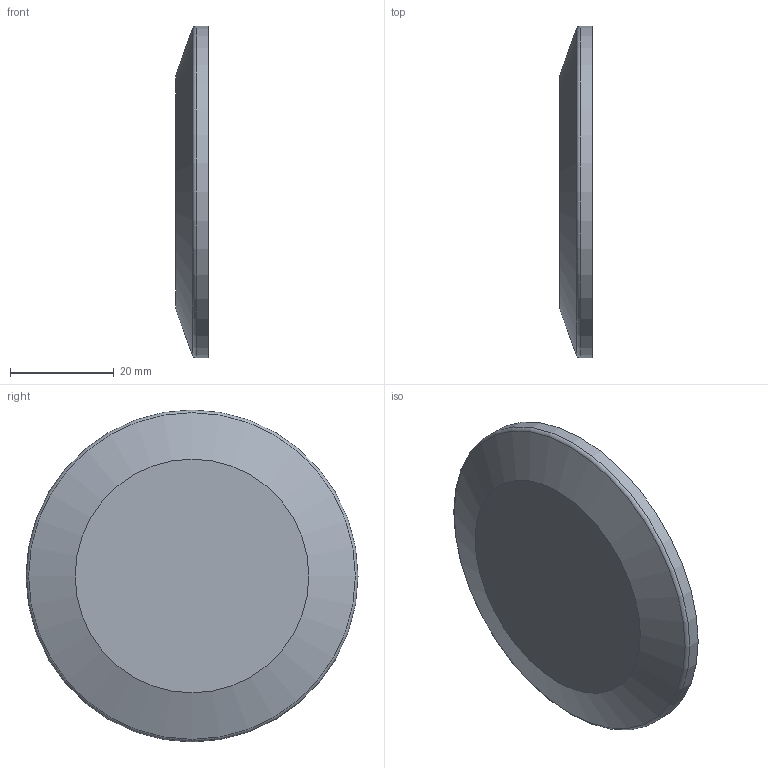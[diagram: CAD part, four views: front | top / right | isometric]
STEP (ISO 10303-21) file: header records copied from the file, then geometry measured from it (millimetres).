
FILE_DESCRIPTION(/* description */ (''),/* implementation_level */ '2;1');
FILE_NAME(/* name */ '12766-Ferrule size-64.stp',/* time_stamp */ '2024-12-16T08:06:16+01:00',/* author */ ('roger.thijssen'),/* organization */ (''),/* preprocessor_version */ 'ST-DEVELOPER v20',/* originating_system */ 'Autodesk Inventor 2025',/* authorisation */ '');
FILE_SCHEMA (('AUTOMOTIVE_DESIGN { 1 0 10303 214 3 1 1 }'));
Length unit declared in the file: millimetre
Products named in the file (1): 12766-Ferrule size-64
Bounding box: 6.3 x 64 x 64 mm (x, y, z)
Volume: 16670.5 mm3; surface area: 7348.6 mm2
Topology: 1 solids, 1 shells, 11 faces, 21 edges, 13 vertices
Faces by surface type: torus 4, cone 3, plane 3, cylinder 1
Full cylindrical faces by diameter (mm): 64 x1
Entity records: 351 total; most frequent: DIRECTION 62, CARTESIAN_POINT 46, ORIENTED_EDGE 42, AXIS2_PLACEMENT_3D 29, EDGE_CURVE 21, CIRCLE 17, VERTEX_POINT 13, EDGE_LOOP 12
